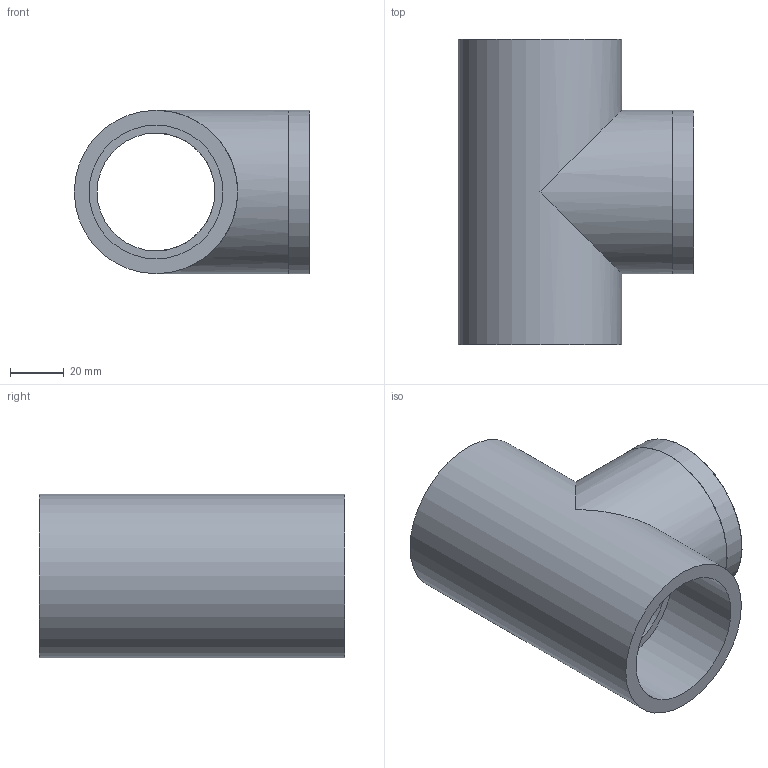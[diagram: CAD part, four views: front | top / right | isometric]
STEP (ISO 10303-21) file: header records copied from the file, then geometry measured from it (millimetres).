
FILE_DESCRIPTION(/* description */ (''),/* implementation_level */ '2;1');
FILE_NAME(/* name */ 'C:\Users\POLYPIPE\Desktop\DATASET INVENTOR\LIBRERIA EFFAST\RACCORDI 3DxWEB\RGR\3D_RGRTIR\3D_RGRTIR050F.stp',/* time_stamp */ '2018-01-19T17:57:15+01:00',/* author */ ('POLYPIPE'),/* organization */ (''),/* preprocessor_version */ 'ST-DEVELOPER v16.1',/* originating_system */ 'Autodesk Inventor 2016',/* authorisation */ '');
FILE_SCHEMA (('CONFIG_CONTROL_DESIGN'));
Length unit declared in the file: centimetre
Products named in the file (1): 3D_RGRTIR050F
Bounding box: 87.9 x 114 x 61.15 mm (x, y, z)
Volume: 162081.3 mm3; surface area: 52776.9 mm2
Topology: 1 solids, 1 shells, 24 faces, 48 edges, 32 vertices
Faces by surface type: cylinder 9, plane 9, bspline 5, torus 1
Full cylindrical faces by diameter (mm): 44 x2, 44.845 x1, 50 x2, 51 x1, 61 x2, 61.2 x1
Entity records: 3989 total; most frequent: CARTESIAN_POINT 3476, DIRECTION 89, ORIENTED_EDGE 74, EDGE_LOOP 43, AXIS2_PLACEMENT_3D 43, EDGE_CURVE 37, VERTEX_POINT 30, STYLED_ITEM 25
